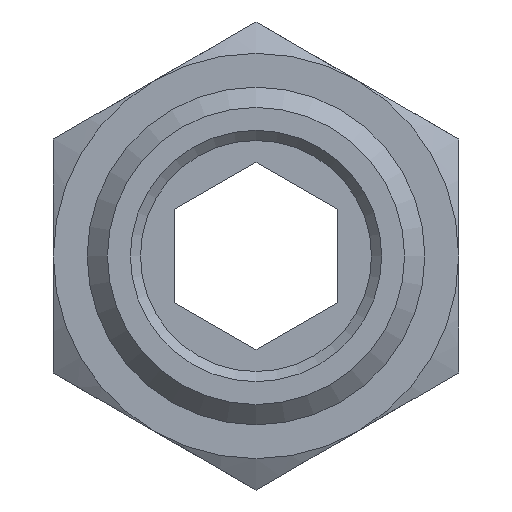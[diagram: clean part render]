
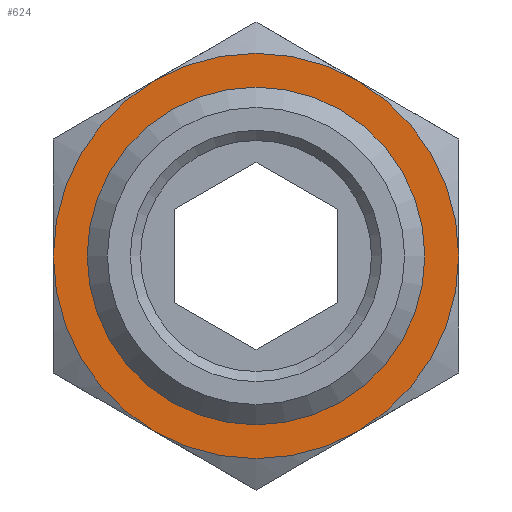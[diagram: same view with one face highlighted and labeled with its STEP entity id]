
A CAD part, front view. The second image highlights one B-rep face of the part: STEP entity #624.
In plain terms, the highlighted planar face has unit normal (0, -1, 0).
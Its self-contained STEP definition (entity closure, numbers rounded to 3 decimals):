
#112=PLANE($,#701);
#144=FACE_BOUND($,#247,.T.);
#145=FACE_BOUND($,#248,.T.);
#247=EDGE_LOOP($,(#565));
#248=EDGE_LOOP($,(#566));
#256=CIRCLE($,#649,8.331);
#263=CIRCLE($,#669,10.);
#298=VERTEX_POINT($,#935);
#323=VERTEX_POINT($,#1058);
#358=EDGE_CURVE($,#298,#298,#256,.T.);
#395=EDGE_CURVE($,#323,#323,#263,.T.);
#565=ORIENTED_EDGE($,*,*,#358,.F.);
#566=ORIENTED_EDGE($,*,*,#395,.T.);
#624=ADVANCED_FACE($,(#144,#145),#112,.T.);
#649=AXIS2_PLACEMENT_3D($,#936,#764,#765);
#669=AXIS2_PLACEMENT_3D($,#1059,#810,#811);
#701=AXIS2_PLACEMENT_3D($,#1100,#874,#875);
#764=DIRECTION('center_axis',(0.,-1.,0.));
#765=DIRECTION('ref_axis',(1.,0.,0.));
#810=DIRECTION('center_axis',(0.,-1.,0.));
#811=DIRECTION('ref_axis',(1.,0.,0.));
#874=DIRECTION('center_axis',(0.,-1.,0.));
#875=DIRECTION('ref_axis',(0.,0.,-1.));
#935=CARTESIAN_POINT('',(8.331,-19.5,0.));
#936=CARTESIAN_POINT('Origin',(0.,-19.5,0.));
#1058=CARTESIAN_POINT('',(-5.,-19.5,8.66));
#1059=CARTESIAN_POINT('Origin',(0.,-19.5,0.));
#1100=CARTESIAN_POINT('Origin',(9.166,-19.5,0.));
